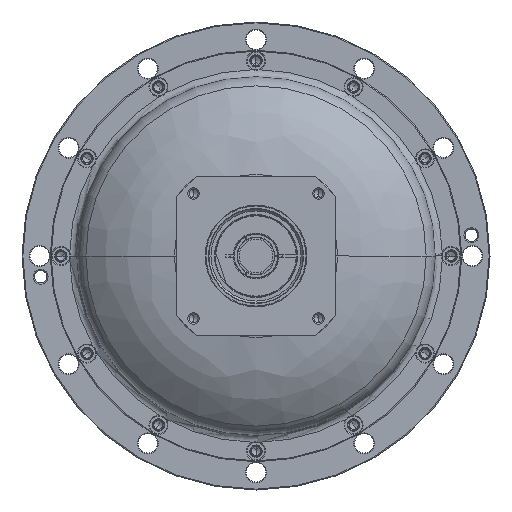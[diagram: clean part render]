
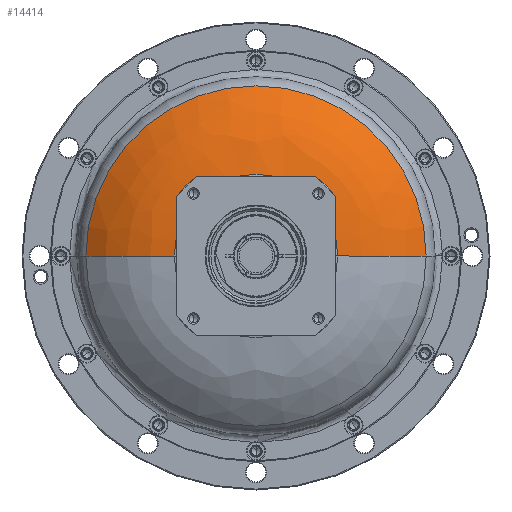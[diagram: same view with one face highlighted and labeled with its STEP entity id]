
A CAD part, left-side view. The second image highlights one B-rep face of the part: STEP entity #14414.
In plain terms, the highlighted free-form (B-spline) face has degree [3, 3] with [7, 4] control points.
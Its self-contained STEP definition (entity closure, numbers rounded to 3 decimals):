
#10155=CARTESIAN_POINT('',(-10.407,0.,0.));
#10156=DIRECTION('',(-1.,0.,0.));
#10157=DIRECTION('',(0.,-1.,0.));
#10158=AXIS2_PLACEMENT_3D('',#10155,#10156,#10157);
#10160=CARTESIAN_POINT('',(-182.832,-79.185,
0.));
#10161=DIRECTION('',(0.,0.,1.));
#10162=DIRECTION('',(0.754,-0.656,0.));
#10163=AXIS2_PLACEMENT_3D('',#10160,#10161,#10162);
#10165=CARTESIAN_POINT('',(-52.367,0.,0.));
#10166=DIRECTION('',(1.,0.,0.));
#10167=DIRECTION('',(0.,1.,0.));
#10168=AXIS2_PLACEMENT_3D('',#10165,#10166,#10167);
#10170=CARTESIAN_POINT('',(-182.832,79.185,0.));
#10171=DIRECTION('',(0.,0.,-1.));
#10172=DIRECTION('',(0.754,0.656,0.));
#10173=AXIS2_PLACEMENT_3D('',#10170,#10171,#10172);
#12172=CARTESIAN_POINT('',(-52.367,192.691,0.));
#12173=CARTESIAN_POINT('',(-52.367,-192.691,
0.));
#12174=VERTEX_POINT('',#12172);
#12175=VERTEX_POINT('',#12173);
#12176=CARTESIAN_POINT('',(-10.407,-92.389,
0.));
#12177=CARTESIAN_POINT('',(-10.407,92.389,
0.));
#12178=VERTEX_POINT('',#12176);
#12179=VERTEX_POINT('',#12177);
#14376=CARTESIAN_POINT('',(-10.252,-90.005,
-5.663));
#14377=CARTESIAN_POINT('',(-12.737,-128.914,
-8.111));
#14378=CARTESIAN_POINT('',(-27.813,-164.882,
-10.374));
#14379=CARTESIAN_POINT('',(-53.829,-193.967,
-12.203));
#14380=CARTESIAN_POINT('',(-10.252,-93.489,
49.726));
#14381=CARTESIAN_POINT('',(-12.737,-133.905,
71.223));
#14382=CARTESIAN_POINT('',(-27.813,-171.266,
91.095));
#14383=CARTESIAN_POINT('',(-53.829,-201.477,
107.164));
#14384=CARTESIAN_POINT('',(-10.252,-55.498,
90.183));
#14385=CARTESIAN_POINT('',(-12.737,-79.49,
129.169));
#14386=CARTESIAN_POINT('',(-27.813,-101.669,
165.208));
#14387=CARTESIAN_POINT('',(-53.829,-119.603,
194.351));
#14388=CARTESIAN_POINT('',(-10.252,0.,
90.183));
#14389=CARTESIAN_POINT('',(-12.737,0.,
129.169));
#14390=CARTESIAN_POINT('',(-27.813,0.,
165.208));
#14391=CARTESIAN_POINT('',(-53.829,0.,
194.351));
#14392=CARTESIAN_POINT('',(-10.252,55.498,
90.183));
#14393=CARTESIAN_POINT('',(-12.737,79.49,
129.169));
#14394=CARTESIAN_POINT('',(-27.813,101.669,
165.208));
#14395=CARTESIAN_POINT('',(-53.829,119.603,
194.351));
#14396=CARTESIAN_POINT('',(-10.252,93.489,
49.726));
#14397=CARTESIAN_POINT('',(-12.737,133.905,
71.223));
#14398=CARTESIAN_POINT('',(-27.813,171.266,
91.095));
#14399=CARTESIAN_POINT('',(-53.829,201.477,
107.164));
#14400=CARTESIAN_POINT('',(-10.252,90.005,
-5.663));
#14401=CARTESIAN_POINT('',(-12.737,128.914,
-8.111));
#14402=CARTESIAN_POINT('',(-27.813,164.882,
-10.374));
#14403=CARTESIAN_POINT('',(-53.829,193.967,
-12.203));
#14404=(BOUNDED_SURFACE()B_SPLINE_SURFACE(3,3,((#14376,#14377,#14378,#14379),(
#14380,#14381,#14382,#14383),(#14384,#14385,#14386,#14387),(#14388,#14389,
#14390,#14391),(#14392,#14393,#14394,#14395),(#14396,#14397,#14398,#14399),(
#14400,#14401,#14402,#14403)),.UNSPECIFIED.,.F.,.F.,.F.)B_SPLINE_SURFACE_WITH_KNOTS((4,3,4),(4,4),(0.,1.,2.),(0.,1.),.UNSPECIFIED.)GEOMETRIC_REPRESENTATION_ITEM()RATIONAL_B_SPLINE_SURFACE(((1.221,1.176,
1.176,1.221),(0.964,0.929,
0.929,0.964),(0.964,0.929,
0.929,0.964),(1.221,1.176,
1.176,1.221),(0.964,0.929,
0.929,0.964),(0.964,0.929,
0.929,0.964),(1.221,1.176,
1.176,1.221)))REPRESENTATION_ITEM('')SURFACE());
#14406=ORIENTED_EDGE('',*,*,#14405,.F.);
#14408=ORIENTED_EDGE('',*,*,#14407,.F.);
#14409=ORIENTED_EDGE('',*,*,#14370,.F.);
#14411=ORIENTED_EDGE('',*,*,#14410,.T.);
#14412=EDGE_LOOP('',(#14406,#14408,#14409,#14411));
#14413=FACE_OUTER_BOUND('',#14412,.F.);
#14414=ADVANCED_FACE('',(#14413),#14404,.T.);
#10159=CIRCLE('',#10158,92.389);
#10164=CIRCLE('',#10163,172.93);
#10169=CIRCLE('',#10168,192.691);
#10174=CIRCLE('',#10173,172.93);
#14370=EDGE_CURVE('',#12174,#12175,#10169,.T.);
#14405=EDGE_CURVE('',#12178,#12179,#10159,.T.);
#14407=EDGE_CURVE('',#12175,#12178,#10164,.T.);
#14410=EDGE_CURVE('',#12174,#12179,#10174,.T.);
